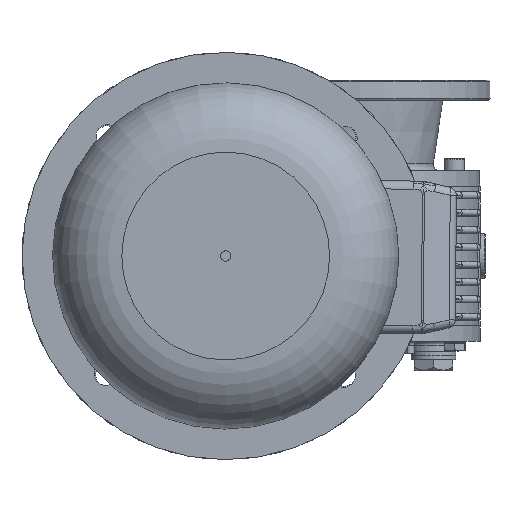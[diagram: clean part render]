
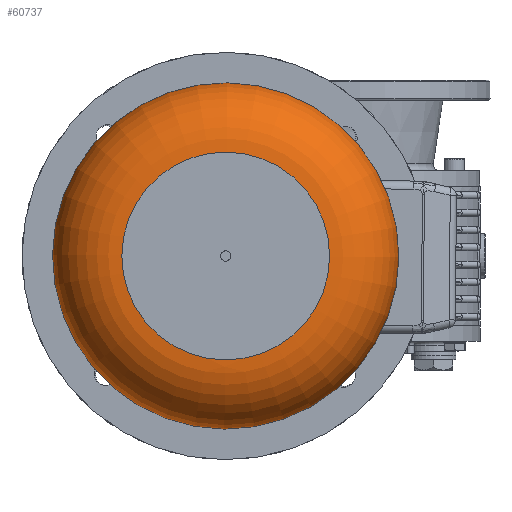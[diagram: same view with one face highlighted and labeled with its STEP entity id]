
A CAD part, left-side view. The second image highlights one B-rep face of the part: STEP entity #60737.
In plain terms, the highlighted toroidal (fillet/blend) face has major radius 51 mm and minor radius 34 mm.
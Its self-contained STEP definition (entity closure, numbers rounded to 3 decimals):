
#60710=CARTESIAN_POINT('',(346.0,0.0,0.0));
#60711=DIRECTION('',(1.0,0.0,0.0));
#60712=DIRECTION('',(0.0,0.0,-1.0));
#60713=AXIS2_PLACEMENT_3D('',#60710,#60711,#60712);
#60714=TOROIDAL_SURFACE('',#60713,51.,34.0);
#60715=CARTESIAN_POINT('',(380.0,51.,0.0));
#60716=VERTEX_POINT('',#60715);
#60717=CARTESIAN_POINT('',(380.0,0.0,0.0));
#60718=DIRECTION('',(1.0,0.0,0.0));
#60719=DIRECTION('',(0.0,1.0,0.0));
#60720=AXIS2_PLACEMENT_3D('',#60717,#60718,#60719);
#60721=CIRCLE('',#60720,51.);
#60722=EDGE_CURVE('',#60716,#60716,#60721,.T.);
#60723=ORIENTED_EDGE('',*,*,#60722,.F.);
#60724=EDGE_LOOP('',(#60723));
#60725=FACE_OUTER_BOUND('',#60724,.T.);
#60726=CARTESIAN_POINT('',(346.0,85.,0.0));
#60727=VERTEX_POINT('',#60726);
#60728=CARTESIAN_POINT('',(346.0,0.0,0.0));
#60729=DIRECTION('',(1.0,0.0,0.0));
#60730=DIRECTION('',(0.0,1.0,0.0));
#60731=AXIS2_PLACEMENT_3D('',#60728,#60729,#60730);
#60732=CIRCLE('',#60731,85.);
#60733=EDGE_CURVE('',#60727,#60727,#60732,.T.);
#60734=ORIENTED_EDGE('',*,*,#60733,.T.);
#60735=EDGE_LOOP('',(#60734));
#60736=FACE_BOUND('',#60735,.T.);
#60737=ADVANCED_FACE('',(#60725,#60736),#60714,.T.);
